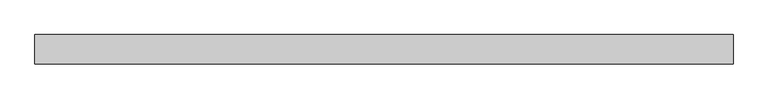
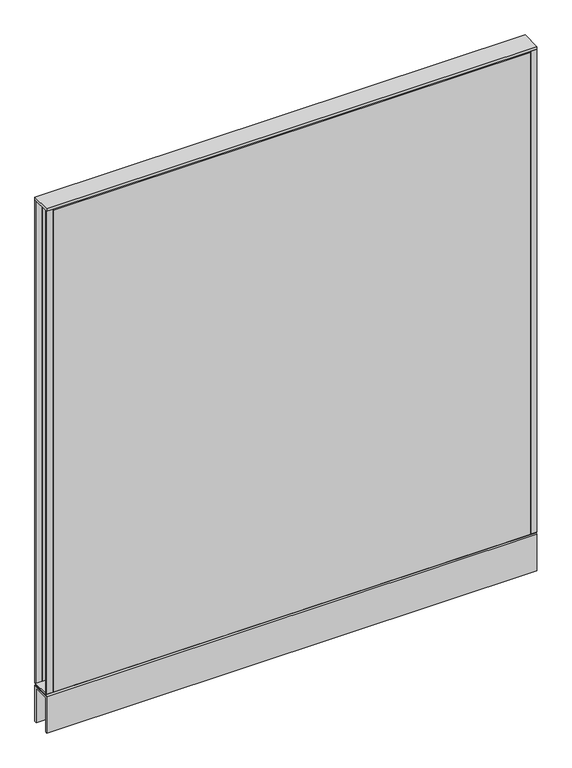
"""IFC4 building model written with IfcOpenShell, lengths in millimetres: furniture geometry, Steelcase - Kick Solutions - Panel - Monolithic - Tackable Acoustical : 54H x 48W."""

from ifc_helpers import new_model, si_unit, frame, origin, place, context, project, spatial, polyline, outline, extrude, source, transform, mapped, element, save


def furniture_97d6cdf2(model_context):
    return source(origin(), model_context, "Body", "SweptSolid", [
        extrude(outline(polyline([(0.0, 101.7169049), (-3.1750015, 101.7169049), (-3.1750015, 1371.7169018), (0.0, 1368.6357466), (0.0, 101.7169049)])), frame((15.8749996, 0.0, 0.0), z_axis=(1.0, 0.0, 0.0), x_axis=(0.0, 1.0, 0.0)), (0.0, 0.0, 1.0), 1187.4500008),
        extrude(outline(polyline([(-50.8000015, 101.7169049), (-50.8000015, 1368.6357466), (-47.625, 1371.7169018), (-47.625, 101.7169049), (-50.8000015, 101.7169049)])), frame((15.8749996, 0.0, 0.0), z_axis=(1.0, 0.0, 0.0), x_axis=(0.0, 1.0, 0.0)), (0.0, 0.0, 1.0), 1187.4500008),
        extrude(outline(polyline([(1219.2, -3.1750015), (1203.3250004, -3.1750015), (1203.3250004, 0.0), (1219.2, 0.0), (1219.2, -3.1750015)])), frame((0.0, 0.0, 101.7169049), z_axis=(0.0, 0.0, 1.0), x_axis=(1.0, 0.0, 0.0)), (0.0, 0.0, 1.0), 1269.999997),
        extrude(outline(polyline([(15.8749996, -50.8000015), (0.0, -50.8000015), (0.0, -47.625), (15.8749996, -47.625), (15.8749996, -50.8000015)])), frame((0.0, 0.0, 101.7169049), z_axis=(0.0, 0.0, 1.0), x_axis=(1.0, 0.0, 0.0)), (0.0, 0.0, 1.0), 1269.999997),
        extrude(outline(polyline([(-50.7995075, 101.7169049), (-0.000494, 101.7169049), (-3.0583512, 98.5421458), (-47.7416503, 98.5421458), (-50.7995075, 101.7169049)])), frame((0.0, 0.0, 0.0), z_axis=(1.0, 0.0, 0.0), x_axis=(0.0, 1.0, 0.0)), (0.0, 0.0, 1.0), 1219.2),
        extrude(outline(polyline([(1219.2, 0.0), (1219.2, -50.8000015), (0.0, -50.8000015), (0.0, 0.0), (1219.2, 0.0)])), frame((0.0, 0.0, 1371.7169018), z_axis=(0.0, 0.0, 1.0), x_axis=(1.0, 0.0, 0.0)), (0.0, 0.0, 1.0), 6.35),
        extrude(outline(polyline([(15.8749996, -3.1750015), (0.0, -3.1750015), (0.0, 0.0), (15.8749996, 0.0), (15.8749996, -3.1750015)])), frame((0.0, 0.0, 101.7169049), z_axis=(0.0, 0.0, 1.0), x_axis=(1.0, 0.0, 0.0)), (0.0, 0.0, 1.0), 1269.999997),
        extrude(outline(polyline([(1219.2, -50.8000015), (1203.3250004, -50.8000015), (1203.3250004, -47.625), (1219.2, -47.625), (1219.2, -50.8000015)])), frame((0.0, 0.0, 101.7169049), z_axis=(0.0, 0.0, 1.0), x_axis=(1.0, 0.0, 0.0)), (0.0, 0.0, 1.0), 1269.999997),
        extrude(outline(polyline([(-50.8000015, 95.3668927), (-47.6247484, 98.5421458), (-3.1752531, 98.5421458), (0.0, 95.3668927), (-50.8000015, 95.3668927)])), frame((0.0, 0.0, 0.0), z_axis=(1.0, 0.0, 0.0), x_axis=(0.0, 1.0, 0.0)), (0.0, 0.0, 1.0), 1219.2),
        extrude(outline(polyline([(0.0, 0.0), (-5.08, 0.0), (-5.08, 90.2869018), (-45.7200015, 90.2869018), (-45.7200015, 0.0), (-50.8000015, 0.0), (-50.8000015, 95.3669018), (0.0, 95.3669018), (0.0, 0.0)])), frame((0.0, 0.0, 0.0), z_axis=(1.0, 0.0, 0.0), x_axis=(0.0, 1.0, 0.0)), (0.0, 0.0, 1.0), 1219.2),
    ])


if __name__ == "__main__":
    model = new_model("IFC4")
    model_context = context("Model", 3, world=origin())
    ifc_project = project(units=[si_unit("LENGTHUNIT", "METRE", prefix="MILLI")], contexts=[model_context])
    site = spatial("IfcSite", under=ifc_project)
    building = spatial("IfcBuilding", under=site)
    placement = place(None, origin())
    furniture_shape = furniture_97d6cdf2(model_context)
    element("IfcFurniture", 1, ObjectType="Steelcase - Kick Solutions - Panel - Monolithic - Tackable Acoustical : 54H x 48W", at=placement, inside=building, context=model_context, shape_type="MappedRepresentation", body=[
        mapped(furniture_shape, transform((0.0, 0.0, 0.0), x_axis=(1.0, 0.0, 0.0), y_axis=(0.0, 1.0, 0.0), z_axis=(0.0, 0.0, 1.0))),
    ])
    save(model, "model.ifc")
